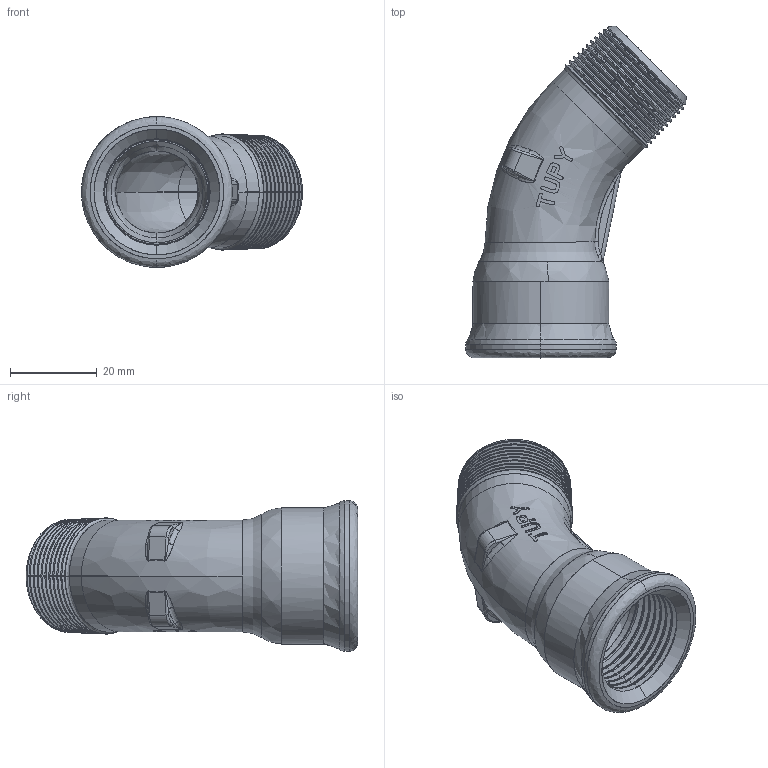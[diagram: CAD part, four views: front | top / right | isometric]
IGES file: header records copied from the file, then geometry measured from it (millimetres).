
Start section: SolidWorks IGES file using analytic representation for surfaces
Global section: file name: C:\Users\Joel Rosa\Desktop\Tubulação\12-27-OK\12-27-006.IGS; native system: SolidWorks 2011; preprocessor: SolidWorks 2011; author: Joel Rosa; date: 131025.215725; units: millimetre
Bounding box: 50.99 x 76.59 x 34.8 mm (x, y, z)
Surface area: 13869.2 mm2 (no closed solid volume)
Topology: 0 solids, 0 shells, 369 faces, 3132 edges, 3132 vertices
Faces by surface type: bspline 269, revolution 100
